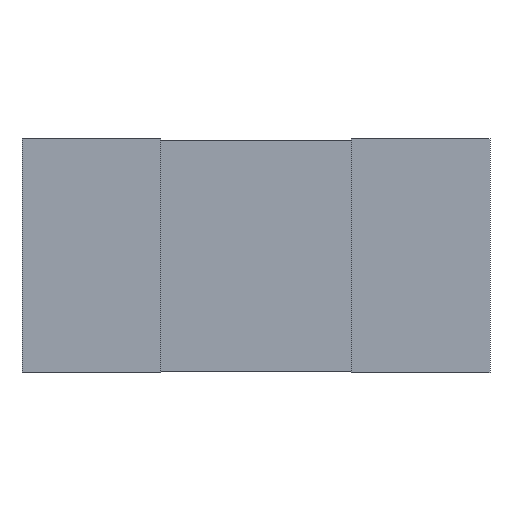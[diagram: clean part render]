
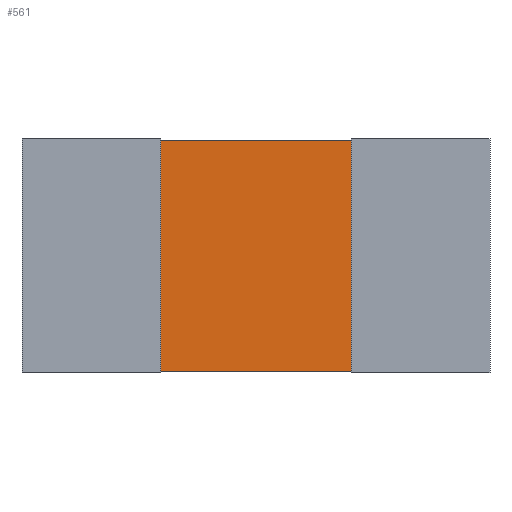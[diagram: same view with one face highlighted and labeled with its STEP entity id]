
A CAD part, front view. The second image highlights one B-rep face of the part: STEP entity #561.
In plain terms, the highlighted planar face has unit normal (0, -1, 0).
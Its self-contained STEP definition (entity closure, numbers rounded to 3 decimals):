
#21=FACE_OUTER_BOUND('',#53,.T.);
#53=EDGE_LOOP('',(#361,#362,#363,#364));
#81=LINE('',#768,#153);
#85=LINE('',#776,#157);
#88=LINE('',#782,#160);
#91=LINE('',#787,#163);
#153=VECTOR('',#630,3.172);
#157=VECTOR('',#636,6.372);
#160=VECTOR('',#641,3.172);
#163=VECTOR('',#646,6.372);
#225=VERTEX_POINT('',#766);
#226=VERTEX_POINT('',#767);
#229=VERTEX_POINT('',#775);
#231=VERTEX_POINT('',#781);
#273=EDGE_CURVE('',#225,#226,#81,.T.);
#277=EDGE_CURVE('',#226,#229,#85,.T.);
#280=EDGE_CURVE('',#229,#231,#88,.T.);
#283=EDGE_CURVE('',#231,#225,#91,.T.);
#361=ORIENTED_EDGE('',*,*,#283,.T.);
#362=ORIENTED_EDGE('',*,*,#273,.T.);
#363=ORIENTED_EDGE('',*,*,#277,.T.);
#364=ORIENTED_EDGE('',*,*,#280,.T.);
#493=PLANE('',#598);
#561=ADVANCED_FACE('',(#21),#493,.F.);
#598=AXIS2_PLACEMENT_3D('',#789,#648,#649);
#630=DIRECTION('',(0.,0.,1.));
#636=DIRECTION('',(-1.,0.,0.));
#641=DIRECTION('',(0.,0.,-1.));
#646=DIRECTION('',(1.,0.,0.));
#648=DIRECTION('center_axis',(0.,1.,0.));
#649=DIRECTION('ref_axis',(0.,0.,1.));
#766=CARTESIAN_POINT('',(6.372,0.,0.));
#767=CARTESIAN_POINT('',(6.372,0.,3.172));
#768=CARTESIAN_POINT('',(6.372,0.,0.));
#775=CARTESIAN_POINT('',(0.,0.,3.172));
#776=CARTESIAN_POINT('',(6.372,0.,3.172));
#781=CARTESIAN_POINT('',(0.,0.,0.));
#782=CARTESIAN_POINT('',(0.,0.,3.172));
#787=CARTESIAN_POINT('',(0.,0.,0.));
#789=CARTESIAN_POINT('Origin',(3.186,0.,1.586));
